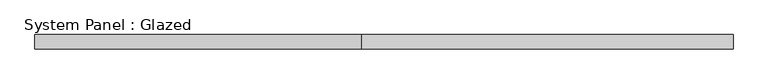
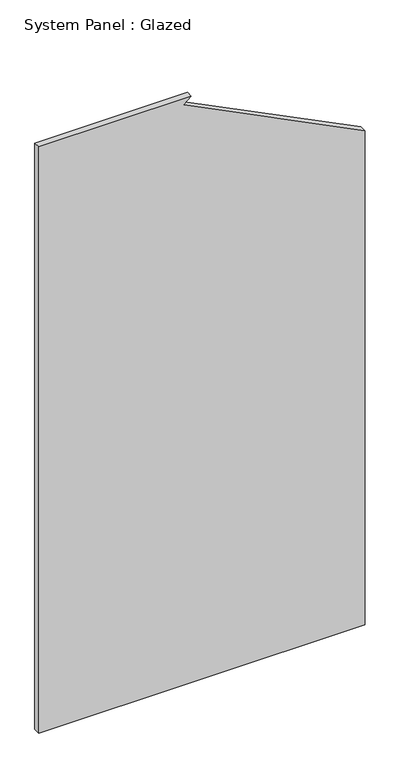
"""IFC4 building model written with IfcOpenShell, lengths in millimetres: plate geometry, System Panel : Glazed."""

from ifc_helpers import new_model, si_unit, frame, origin, place, context, project, spatial, polyline, outline, extrude, source, transform, mapped, element, save


def system_panel_glazed_c584759f(model_context):
    return source(origin(), model_context, "Body", "SweptSolid", [
        extrude(outline(polyline([(0.0, -625.475), (0.0, 625.475), (2002.6710429, 625.475), (2349.8538734, -68.890661), (2374.9, -40.4925977), (2374.9, -625.475), (0.0, -625.475)])), frame((0.0, 19.05, 0.0), z_axis=(0.0, 1.0, 0.0), x_axis=(0.0, 0.0, 1.0)), (0.0, 0.0, 1.0), 25.4),
    ])


if __name__ == "__main__":
    model = new_model("IFC4")
    model_context = context("Model", 3, world=origin())
    ifc_project = project(units=[si_unit("LENGTHUNIT", "METRE", prefix="MILLI")], contexts=[model_context])
    site = spatial("IfcSite", under=ifc_project)
    building = spatial("IfcBuilding", under=site)
    placement = place(None, origin())
    system_panel_glazed_shape = system_panel_glazed_c584759f(model_context)
    element("IfcPlate", 1, ObjectType="System Panel : Glazed", at=placement, inside=building, context=model_context, shape_type="MappedRepresentation", body=[
        mapped(system_panel_glazed_shape, transform((0.0, 0.0, 0.0), x_axis=(1.0, 0.0, 0.0), y_axis=(0.0, 1.0, 0.0), z_axis=(0.0, 0.0, 1.0))),
    ])
    save(model, "model.ifc")
